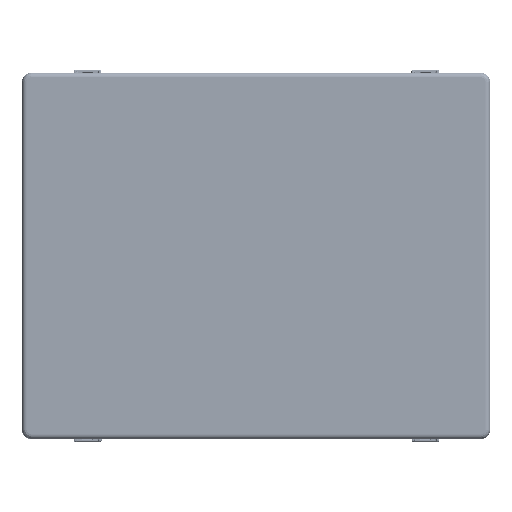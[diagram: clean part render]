
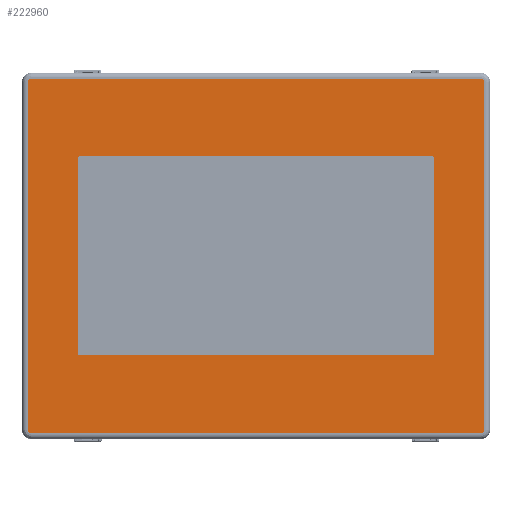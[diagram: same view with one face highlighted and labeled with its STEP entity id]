
A CAD part, top view. The second image highlights one B-rep face of the part: STEP entity #222960.
In plain terms, the highlighted planar face has unit normal (0, 0, 1).
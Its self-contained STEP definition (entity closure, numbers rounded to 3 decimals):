
#13945=FACE_BOUND('',#49210,.T.);
#21030=PLANE('',#249776);
#32935=FACE_OUTER_BOUND('',#49209,.T.);
#49209=EDGE_LOOP('',(#206465,#206466,#206467,#206468,#206469,#206470,#206471,
#206472));
#49210=EDGE_LOOP('',(#206473,#206474,#206475,#206476,#206477,#206478,#206479,
#206480));
#69022=LINE('',#431858,#88860);
#69026=LINE('',#431870,#88864);
#69030=LINE('',#431882,#88868);
#69034=LINE('',#431892,#88872);
#69038=LINE('',#431906,#88876);
#69042=LINE('',#431918,#88880);
#69046=LINE('',#431930,#88884);
#69050=LINE('',#431940,#88888);
#88860=VECTOR('',#313427,10.);
#88864=VECTOR('',#313439,10.);
#88868=VECTOR('',#313451,10.);
#88872=VECTOR('',#313463,10.);
#88876=VECTOR('',#313475,10.);
#88880=VECTOR('',#313487,10.);
#88884=VECTOR('',#313499,10.);
#88888=VECTOR('',#313511,10.);
#98000=CIRCLE('',#249746,0.8);
#98002=CIRCLE('',#249750,0.8);
#98004=CIRCLE('',#249754,0.8);
#98006=CIRCLE('',#249758,0.8);
#98008=CIRCLE('',#249762,1.5);
#98010=CIRCLE('',#249766,1.5);
#98012=CIRCLE('',#249770,1.5);
#98014=CIRCLE('',#249774,1.5);
#117605=VERTEX_POINT('',#431849);
#117606=VERTEX_POINT('',#431851);
#117608=VERTEX_POINT('',#431857);
#117610=VERTEX_POINT('',#431863);
#117612=VERTEX_POINT('',#431869);
#117614=VERTEX_POINT('',#431875);
#117616=VERTEX_POINT('',#431881);
#117618=VERTEX_POINT('',#431887);
#117621=VERTEX_POINT('',#431897);
#117622=VERTEX_POINT('',#431899);
#117624=VERTEX_POINT('',#431905);
#117626=VERTEX_POINT('',#431911);
#117628=VERTEX_POINT('',#431917);
#117630=VERTEX_POINT('',#431923);
#117632=VERTEX_POINT('',#431929);
#117634=VERTEX_POINT('',#431935);
#147259=EDGE_CURVE('',#117606,#117605,#98000,.T.);
#147262=EDGE_CURVE('',#117608,#117606,#69022,.T.);
#147265=EDGE_CURVE('',#117610,#117608,#98002,.T.);
#147268=EDGE_CURVE('',#117612,#117610,#69026,.T.);
#147271=EDGE_CURVE('',#117614,#117612,#98004,.T.);
#147274=EDGE_CURVE('',#117616,#117614,#69030,.T.);
#147277=EDGE_CURVE('',#117618,#117616,#98006,.T.);
#147280=EDGE_CURVE('',#117605,#117618,#69034,.T.);
#147283=EDGE_CURVE('',#117622,#117621,#98008,.T.);
#147286=EDGE_CURVE('',#117624,#117622,#69038,.T.);
#147289=EDGE_CURVE('',#117626,#117624,#98010,.T.);
#147292=EDGE_CURVE('',#117628,#117626,#69042,.T.);
#147295=EDGE_CURVE('',#117630,#117628,#98012,.T.);
#147298=EDGE_CURVE('',#117632,#117630,#69046,.T.);
#147301=EDGE_CURVE('',#117634,#117632,#98014,.T.);
#147304=EDGE_CURVE('',#117621,#117634,#69050,.T.);
#206465=ORIENTED_EDGE('',*,*,#147304,.T.);
#206466=ORIENTED_EDGE('',*,*,#147301,.T.);
#206467=ORIENTED_EDGE('',*,*,#147298,.T.);
#206468=ORIENTED_EDGE('',*,*,#147295,.T.);
#206469=ORIENTED_EDGE('',*,*,#147292,.T.);
#206470=ORIENTED_EDGE('',*,*,#147289,.T.);
#206471=ORIENTED_EDGE('',*,*,#147286,.T.);
#206472=ORIENTED_EDGE('',*,*,#147283,.T.);
#206473=ORIENTED_EDGE('',*,*,#147271,.T.);
#206474=ORIENTED_EDGE('',*,*,#147268,.T.);
#206475=ORIENTED_EDGE('',*,*,#147265,.T.);
#206476=ORIENTED_EDGE('',*,*,#147262,.T.);
#206477=ORIENTED_EDGE('',*,*,#147259,.T.);
#206478=ORIENTED_EDGE('',*,*,#147280,.T.);
#206479=ORIENTED_EDGE('',*,*,#147277,.T.);
#206480=ORIENTED_EDGE('',*,*,#147274,.T.);
#222960=ADVANCED_FACE('',(#32935,#13945),#21030,.T.);
#249746=AXIS2_PLACEMENT_3D('',#431852,#313421,#313422);
#249750=AXIS2_PLACEMENT_3D('',#431864,#313433,#313434);
#249754=AXIS2_PLACEMENT_3D('',#431876,#313445,#313446);
#249758=AXIS2_PLACEMENT_3D('',#431888,#313457,#313458);
#249762=AXIS2_PLACEMENT_3D('',#431900,#313469,#313470);
#249766=AXIS2_PLACEMENT_3D('',#431912,#313481,#313482);
#249770=AXIS2_PLACEMENT_3D('',#431924,#313493,#313494);
#249774=AXIS2_PLACEMENT_3D('',#431936,#313505,#313506);
#249776=AXIS2_PLACEMENT_3D('',#431941,#313512,#313513);
#313421=DIRECTION('center_axis',(0.,0.,-1.));
#313422=DIRECTION('ref_axis',(-1.,0.,0.));
#313427=DIRECTION('',(-1.,0.,0.));
#313433=DIRECTION('center_axis',(0.,0.,-1.));
#313434=DIRECTION('ref_axis',(0.,-1.,0.));
#313439=DIRECTION('',(0.,-1.,0.));
#313445=DIRECTION('center_axis',(0.,0.,-1.));
#313446=DIRECTION('ref_axis',(1.,0.,0.));
#313451=DIRECTION('',(1.,0.,0.));
#313457=DIRECTION('center_axis',(0.,0.,-1.));
#313458=DIRECTION('ref_axis',(0.,1.,0.));
#313463=DIRECTION('',(0.,1.,0.));
#313469=DIRECTION('center_axis',(0.,0.,1.));
#313470=DIRECTION('ref_axis',(0.,-1.,0.));
#313475=DIRECTION('',(1.,0.,0.));
#313481=DIRECTION('center_axis',(0.,0.,1.));
#313482=DIRECTION('ref_axis',(-1.,0.,0.));
#313487=DIRECTION('',(0.,-1.,0.));
#313493=DIRECTION('center_axis',(0.,0.,1.));
#313494=DIRECTION('ref_axis',(0.,1.,0.));
#313499=DIRECTION('',(-1.,0.,0.));
#313505=DIRECTION('center_axis',(0.,0.,1.));
#313506=DIRECTION('ref_axis',(1.,0.,0.));
#313511=DIRECTION('',(0.,1.,0.));
#313512=DIRECTION('center_axis',(0.,0.,1.));
#313513=DIRECTION('ref_axis',(1.,0.,0.));
#431849=CARTESIAN_POINT('',(-77.08,-42.2,0.8));
#431851=CARTESIAN_POINT('',(-76.28,-43.,0.8));
#431852=CARTESIAN_POINT('Origin',(-76.28,-42.2,0.8));
#431857=CARTESIAN_POINT('',(76.28,-43.,0.8));
#431858=CARTESIAN_POINT('',(38.14,-43.,0.8));
#431863=CARTESIAN_POINT('',(77.08,-42.2,0.8));
#431864=CARTESIAN_POINT('Origin',(76.28,-42.2,0.8));
#431869=CARTESIAN_POINT('',(77.08,42.2,0.8));
#431870=CARTESIAN_POINT('',(77.08,21.1,0.8));
#431875=CARTESIAN_POINT('',(76.28,43.,0.8));
#431876=CARTESIAN_POINT('Origin',(76.28,42.2,0.8));
#431881=CARTESIAN_POINT('',(-76.28,43.,0.8));
#431882=CARTESIAN_POINT('',(-38.14,43.,0.8));
#431887=CARTESIAN_POINT('',(-77.08,42.2,0.8));
#431888=CARTESIAN_POINT('Origin',(-76.28,42.2,0.8));
#431892=CARTESIAN_POINT('',(-77.08,-21.1,0.8));
#431897=CARTESIAN_POINT('',(98.65,-75.15,0.8));
#431899=CARTESIAN_POINT('',(97.15,-76.65,0.8));
#431900=CARTESIAN_POINT('Origin',(97.15,-75.15,0.8));
#431905=CARTESIAN_POINT('',(-97.15,-76.65,0.8));
#431906=CARTESIAN_POINT('',(-97.15,-76.65,0.8));
#431911=CARTESIAN_POINT('',(-98.65,-75.15,0.8));
#431912=CARTESIAN_POINT('Origin',(-97.15,-75.15,0.8));
#431917=CARTESIAN_POINT('',(-98.65,75.15,0.8));
#431918=CARTESIAN_POINT('',(-98.65,75.15,0.8));
#431923=CARTESIAN_POINT('',(-97.15,76.65,0.8));
#431924=CARTESIAN_POINT('Origin',(-97.15,75.15,0.8));
#431929=CARTESIAN_POINT('',(97.15,76.65,0.8));
#431930=CARTESIAN_POINT('',(97.15,76.65,0.8));
#431935=CARTESIAN_POINT('',(98.65,75.15,0.8));
#431936=CARTESIAN_POINT('Origin',(97.15,75.15,0.8));
#431940=CARTESIAN_POINT('',(98.65,-75.15,0.8));
#431941=CARTESIAN_POINT('Origin',(0.,0.,0.8));
